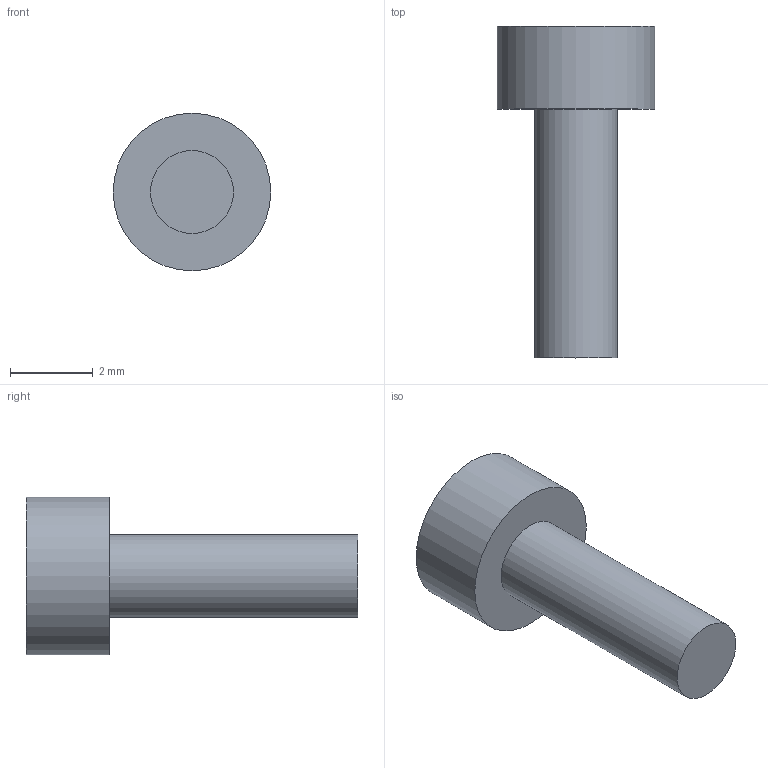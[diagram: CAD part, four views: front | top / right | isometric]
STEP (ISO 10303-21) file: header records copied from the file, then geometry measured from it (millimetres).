
FILE_DESCRIPTION(('Open CASCADE Model'),'2;1');
FILE_NAME('REF_screw_SSCF-M2-6-A2_mic_bracket_-66_simplified', '2026-09-08T13:43:21',('Author'),('Open CASCADE'), 'Open CASCADE STEP processor 7.8','build123d','Unknown');
FILE_SCHEMA(('AUTOMOTIVE_DESIGN { 1 0 10303 214 1 1 1 1 }'));
Length unit declared in the file: millimetre
Products named in the file (2): =>[0:1:1:2]; REF_screw_SSCF-M2-6-A2_mic_bracket_-66_simplified
Assembly tree (1 placements, depth 2):
  =>[0:1:1:2]
    REF_screw_SSCF-M2-6-A2_mic_bracket_-66_simplified
Bounding box: 3.8 x 8 x 3.8 mm (x, y, z)
Volume: 41.5 mm3; surface area: 84.3 mm2
Topology: 1 solids, 1 shells, 5 faces, 6 edges, 4 vertices
Faces by surface type: plane 3, cylinder 2
Full cylindrical faces by diameter (mm): 2 x1, 3.8 x1
Entity records: 210 total; most frequent: DIRECTION 36, CARTESIAN_POINT 29, ORIENTED_EDGE 12, PCURVE 12, DEFINITIONAL_REPRESENTATION 12, AXIS2_PLACEMENT_3D 11, LINE 10, VECTOR 10
